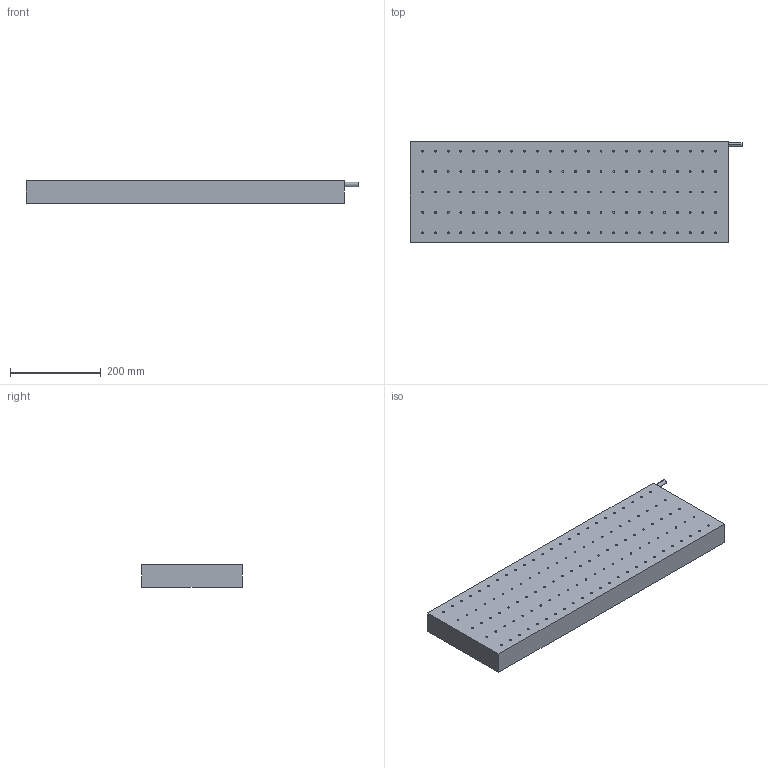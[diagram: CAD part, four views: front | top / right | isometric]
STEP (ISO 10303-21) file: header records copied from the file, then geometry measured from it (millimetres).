
FILE_DESCRIPTION (( 'STEP AP214' ), '1' );
FILE_NAME ('WKM200B雄赽.STEP', '2025-09-05T12:13:31', ( '' ), ( '' ), 'SwSTEP 2.0', 'SolidWorks 2016', '' );
FILE_SCHEMA (( 'AUTOMOTIVE_DESIGN' ));
Length unit declared in the file: millimetre
Products named in the file (1): WKM200B雄赽
Bounding box: 730 x 221 x 49.3 mm (x, y, z)
Volume: 7618993.3 mm3; surface area: 410091.5 mm2
Topology: 1 solids, 1 shells, 489 faces, 1218 edges, 612 vertices
Faces by surface type: cylinder 242, cone 240, plane 7
Entity records: 15390 total; most frequent: DIRECTION 2442, CARTESIAN_POINT 2080, ORIENTED_EDGE 1956, EDGE_CURVE 978, AXIS2_PLACEMENT_3D 974, VERTEX_POINT 612, EDGE_LOOP 610, LINE 494
